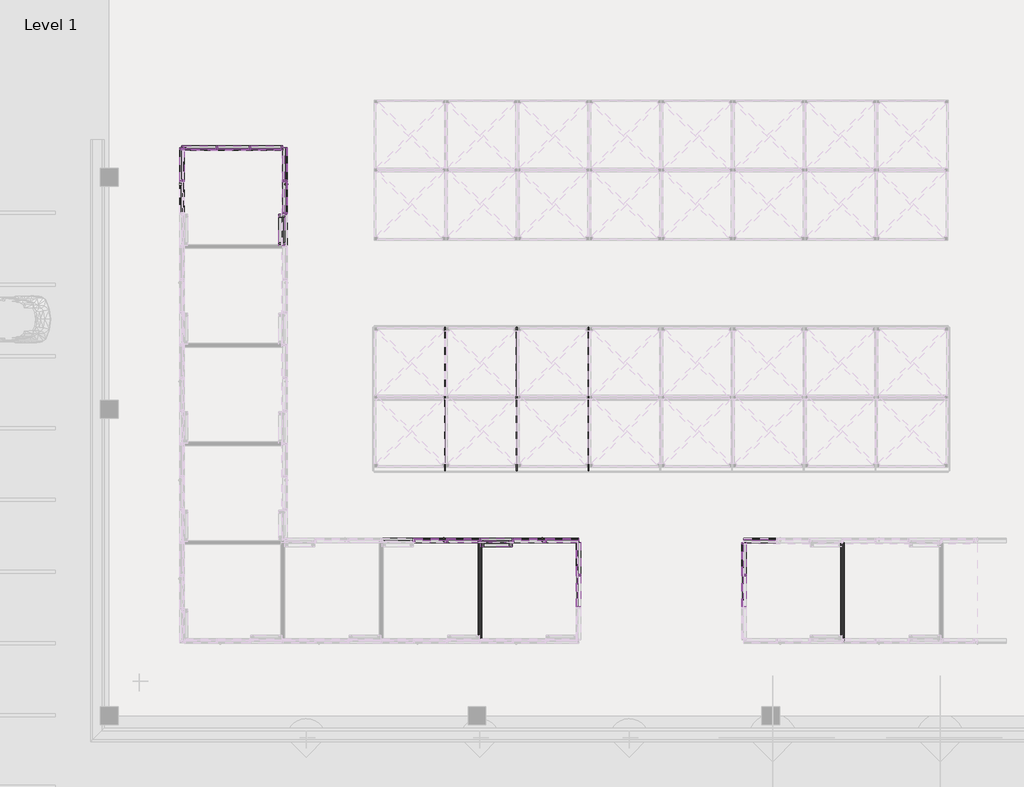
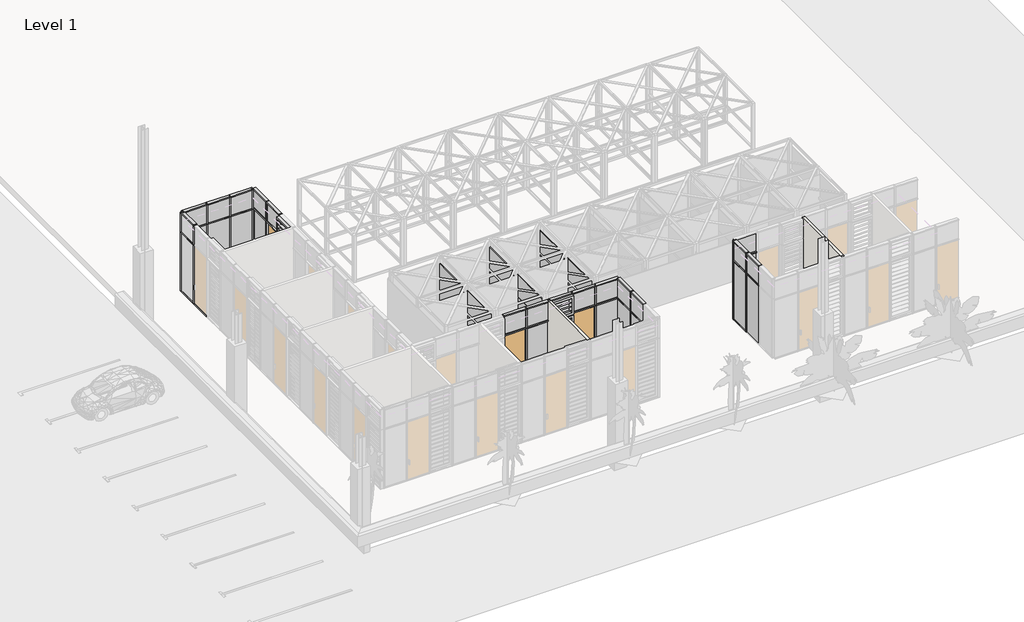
# One storey, part 4 of 32: 82 members, 32 plates, 3 doors, 2 walls.
"""IFC4 building model written with IfcOpenShell, lengths in millimetres."""

from ifc_helpers import new_model, si_unit, frame, origin, place, context, project, spatial, polyline, outline, extrude, transform, mapped, element, save
from components import curtain_wall_door_single_glass_nz_curtain_wall_door_single_2bf20aac, curtain_wall_door_single_glass_nz_curtain_wall_door_single_ff8afd41, rectangular_mullion_50x150mm_c4504768, rectangular_mullion_50x150mm_6c7cb899, rectangular_mullion_50x150mm_b0af8bb0, rectangular_mullion_50x150mm_bbc1c4ea, rectangular_mullion_50x150mm_1a36453b, rectangular_mullion_50x150mm_ef3a484d, rectangular_mullion_50x150mm_593aaa1e, rectangular_mullion_50x150mm_a65b6ca2, rectangular_mullion_50x150mm_38419d34, rectangular_mullion_50x150mm_eeb88b28, rectangular_mullion_50x150mm_68c91185, rectangular_mullion_50x150mm_0d540e17, rectangular_mullion_50x150mm_108cdc6f, rectangular_mullion_50x150mm_969ed0b5, rectangular_mullion_50x150mm_ed299feb, rectangular_mullion_50x150mm_a540b215, rectangular_mullion_50x150mm_a0cfcace, rectangular_mullion_50x150mm_7be19fc6, rectangular_mullion_50x150mm_2e7aba4c, rectangular_mullion_50x150mm_849620c7, rectangular_mullion_50x150mm_662c37b1, rectangular_mullion_50x150mm_c3fb0a2c, rectangular_mullion_50x150mm_43e459b7, curtain_wall_panel_louver_20805_curtain_wall_panel_louver_4af505d4, curtain_wall_panel_louver_20805_curtain_wall_panel_louver_14332c5b, curtain_wall_panel_glass_louver_20805_curtain_wall_panel_036772b2, curtain_wall_panel_glass_louver_20805_curtain_wall_panel_0f8e40a1, system_panel_glazed_29269e8f, system_panel_glazed_a5e8ce8b, system_panel_glazed_2ffedfca, system_panel_glazed_7622d22c, system_panel_glazed_a434d42b, system_panel_glazed_53fe5bbb, system_panel_glazed_57f08e05, system_panel_glazed_300e6ed4, system_panel_glazed_57b1a7ec, system_panel_glazed_83b29ed4, system_panel_glazed_e3f4a273, system_panel_glazed_cbbd3026, system_panel_glazed_714bd533, system_panel_glazed_c406ecc0, system_panel_glazed_912d3682, system_panel_glazed_de414a09, system_panel_solid_585523e5, system_panel_solid_9660e4da, system_panel_solid_746005ab, system_panel_solid_10c0fb46

model = new_model("IFC4")

# Units and contexts
model_context = context("Model", 3, world=origin())
ifc_project = project(units=[si_unit("LENGTHUNIT", "METRE", prefix="MILLI")], contexts=[model_context])

# Site, building, storey
site = spatial("IfcSite", under=ifc_project)
building = spatial("IfcBuilding", under=site)
storey = spatial("IfcBuildingStorey", under=building, Name="Level 1", Elevation=2800.0)

# Doors
placement = place(None, origin())
curtain_wall_door_single_glass_nz_curtain_wall_door_single_shape = curtain_wall_door_single_glass_nz_curtain_wall_door_single_2bf20aac(model_context)
element("IfcDoor", 1, ObjectType="Curtain Wall Door-Single-Glass (NZ) : Curtain Wall Door-Single-Glass (NZ)", at=placement, inside=storey, context=model_context, shape_type="MappedRepresentation", body=[
    mapped(curtain_wall_door_single_glass_nz_curtain_wall_door_single_shape, transform((-83784.8408447, -18455.9199596, 2850.0), x_axis=(0.0, -1.0, 0.0), y_axis=(1.0, 0.0, 0.0), z_axis=(0.0, 0.0, 1.0))),
])
curtain_wall_door_single_glass_nz_curtain_wall_door_single_2_shape = curtain_wall_door_single_glass_nz_curtain_wall_door_single_ff8afd41(model_context)
element("IfcDoor", 2, ObjectType="Curtain Wall Door-Single-Glass (NZ) : Curtain Wall Door-Single-Glass (NZ)", at=placement, inside=storey, context=model_context, shape_type="MappedRepresentation", body=[
    mapped(curtain_wall_door_single_glass_nz_curtain_wall_door_single_2_shape, transform((-78909.8408447, -29943.4199596, 2850.0), x_axis=(-1.0, 0.0, 0.0), y_axis=(0.0, -1.0, 0.0), z_axis=(0.0, 0.0, 1.0))),
])
element("IfcDoor", 3, ObjectType="Curtain Wall Door-Single-Glass (NZ) : Curtain Wall Door-Single-Glass (NZ)", at=placement, inside=storey, context=model_context, shape_type="MappedRepresentation", body=[
    mapped(curtain_wall_door_single_glass_nz_curtain_wall_door_single_2_shape, transform((-75609.8408447, -29943.4199596, 2850.0), x_axis=(-1.0, 0.0, 0.0), y_axis=(0.0, -1.0, 0.0), z_axis=(0.0, 0.0, 1.0))),
])

# Members
rectangular_mullion_50x150mm_shape = rectangular_mullion_50x150mm_c4504768(model_context)
element("IfcMember", 4, ObjectType="Rectangular Mullion : 50x150mm", at=placement, inside=storey, context=model_context, shape_type="MappedRepresentation", body=[
    mapped(rectangular_mullion_50x150mm_shape, transform((-83784.8408447, -18980.9199596, 5800.0), x_axis=(0.0, 0.0, 1.0), y_axis=(-1.0, 0.0, 0.0), z_axis=(0.0, -1.0, 0.0))),
])
element("IfcMember", 5, ObjectType="Rectangular Mullion : 50x150mm", at=placement, inside=storey, context=model_context, shape_type="MappedRepresentation", body=[
    mapped(rectangular_mullion_50x150mm_shape, transform((-86034.8408446, -16805.9199596, 5800.0), x_axis=(0.0, 0.0, 1.0), y_axis=(0.0, 1.0, 0.0), z_axis=(-1.0, 0.0, 0.0))),
])
rectangular_mullion_50x150mm_2_shape = rectangular_mullion_50x150mm_6c7cb899(model_context)
element("IfcMember", 6, ObjectType="Rectangular Mullion : 50x150mm", at=placement, inside=storey, context=model_context, shape_type="MappedRepresentation", body=[
    mapped(rectangular_mullion_50x150mm_2_shape, transform((-83784.8408447, -19005.9199596, 2800.0), x_axis=(0.0, -1.0, 0.0), y_axis=(-1.0, 0.0, 0.0), z_axis=(0.0, 0.0, -1.0))),
])
element("IfcMember", 7, ObjectType="Rectangular Mullion : 50x150mm", at=placement, inside=storey, context=model_context, shape_type="MappedRepresentation", body=[
    mapped(rectangular_mullion_50x150mm_2_shape, transform((-83784.8408447, -17905.9199596, 2800.0), x_axis=(0.0, -1.0, 0.0), y_axis=(-1.0, 0.0, 0.0), z_axis=(0.0, 0.0, -1.0))),
])
element("IfcMember", 8, ObjectType="Rectangular Mullion : 50x150mm", at=placement, inside=storey, context=model_context, shape_type="MappedRepresentation", body=[
    mapped(rectangular_mullion_50x150mm_2_shape, transform((-73959.8408447, -31092.5866264, 2800.0), x_axis=(0.0, 1.0, 0.0), y_axis=(1.0, 0.0, 0.0), z_axis=(0.0, 0.0, -1.0))),
])
element("IfcMember", 9, ObjectType="Rectangular Mullion : 50x150mm", at=placement, inside=storey, context=model_context, shape_type="MappedRepresentation", body=[
    mapped(rectangular_mullion_50x150mm_2_shape, transform((-68427.8056755, -31092.5866264, 2800.0), x_axis=(0.0, 1.0, 0.0), y_axis=(1.0, 0.0, 0.0), z_axis=(0.0, 0.0, -1.0))),
])
element("IfcMember", 10, ObjectType="Rectangular Mullion : 50x150mm", at=placement, inside=storey, context=model_context, shape_type="MappedRepresentation", body=[
    mapped(rectangular_mullion_50x150mm_2_shape, transform((-84959.8408448, -16805.9199596, 2800.0), x_axis=(-1.0, 0.0, 0.0), y_axis=(0.0, 1.0, 0.0), z_axis=(0.0, 0.0, -1.0))),
])
element("IfcMember", 11, ObjectType="Rectangular Mullion : 50x150mm", at=placement, inside=storey, context=model_context, shape_type="MappedRepresentation", body=[
    mapped(rectangular_mullion_50x150mm_2_shape, transform((-86059.8408446, -16805.9199596, 2800.0), x_axis=(-1.0, 0.0, 0.0), y_axis=(0.0, 1.0, 0.0), z_axis=(0.0, 0.0, -1.0))),
])
rectangular_mullion_50x150mm_3_shape = rectangular_mullion_50x150mm_b0af8bb0(model_context)
element("IfcMember", 12, ObjectType="Rectangular Mullion : 50x150mm", at=placement, inside=storey, context=model_context, shape_type="MappedRepresentation", body=[
    mapped(rectangular_mullion_50x150mm_3_shape, transform((-83784.8408447, -19030.9199596, 2800.0), x_axis=(0.0, 0.0, -1.0), y_axis=(-1.0, 0.0, 0.0), z_axis=(0.0, 1.0, 0.0))),
])
element("IfcMember", 13, ObjectType="Rectangular Mullion : 50x150mm", at=placement, inside=storey, context=model_context, shape_type="MappedRepresentation", body=[
    mapped(rectangular_mullion_50x150mm_3_shape, transform((-83784.8408447, -17930.9199596, 2800.0), x_axis=(0.0, 0.0, -1.0), y_axis=(-1.0, 0.0, 0.0), z_axis=(0.0, 1.0, 0.0))),
])
element("IfcMember", 14, ObjectType="Rectangular Mullion : 50x150mm", at=placement, inside=storey, context=model_context, shape_type="MappedRepresentation", body=[
    mapped(rectangular_mullion_50x150mm_3_shape, transform((-84984.8408448, -16805.9199596, 2800.0), x_axis=(0.0, 0.0, -1.0), y_axis=(0.0, 1.0, 0.0), z_axis=(1.0, 0.0, 0.0))),
])
rectangular_mullion_50x150mm_4_shape = rectangular_mullion_50x150mm_bbc1c4ea(model_context)
element("IfcMember", 15, ObjectType="Rectangular Mullion : 50x150mm", at=placement, inside=storey, context=model_context, shape_type="MappedRepresentation", body=[
    mapped(rectangular_mullion_50x150mm_4_shape, transform((-83784.8408447, -19005.9199596, 5800.0), x_axis=(0.0, -1.0, 0.0), y_axis=(-1.0, 0.0, 0.0), z_axis=(0.0, 0.0, -1.0))),
])
element("IfcMember", 16, ObjectType="Rectangular Mullion : 50x150mm", at=placement, inside=storey, context=model_context, shape_type="MappedRepresentation", body=[
    mapped(rectangular_mullion_50x150mm_4_shape, transform((-83784.8408447, -17905.9199596, 5800.0), x_axis=(0.0, -1.0, 0.0), y_axis=(-1.0, 0.0, 0.0), z_axis=(0.0, 0.0, -1.0))),
])
element("IfcMember", 17, ObjectType="Rectangular Mullion : 50x150mm", at=placement, inside=storey, context=model_context, shape_type="MappedRepresentation", body=[
    mapped(rectangular_mullion_50x150mm_4_shape, transform((-73959.8408447, -31092.5866264, 5800.0), x_axis=(0.0, 1.0, 0.0), y_axis=(1.0, 0.0, 0.0), z_axis=(0.0, 0.0, -1.0))),
])
element("IfcMember", 18, ObjectType="Rectangular Mullion : 50x150mm", at=placement, inside=storey, context=model_context, shape_type="MappedRepresentation", body=[
    mapped(rectangular_mullion_50x150mm_4_shape, transform((-68427.8056755, -31092.5866264, 5800.0), x_axis=(0.0, 1.0, 0.0), y_axis=(1.0, 0.0, 0.0), z_axis=(0.0, 0.0, -1.0))),
])
element("IfcMember", 19, ObjectType="Rectangular Mullion : 50x150mm", at=placement, inside=storey, context=model_context, shape_type="MappedRepresentation", body=[
    mapped(rectangular_mullion_50x150mm_4_shape, transform((-84959.8408448, -16805.9199596, 5800.0), x_axis=(-1.0, 0.0, 0.0), y_axis=(0.0, 1.0, 0.0), z_axis=(0.0, 0.0, -1.0))),
])
element("IfcMember", 20, ObjectType="Rectangular Mullion : 50x150mm", at=placement, inside=storey, context=model_context, shape_type="MappedRepresentation", body=[
    mapped(rectangular_mullion_50x150mm_4_shape, transform((-86059.8408446, -16805.9199596, 5800.0), x_axis=(-1.0, 0.0, 0.0), y_axis=(0.0, 1.0, 0.0), z_axis=(0.0, 0.0, -1.0))),
])
rectangular_mullion_50x150mm_5_shape = rectangular_mullion_50x150mm_1a36453b(model_context)
element("IfcMember", 21, ObjectType="Rectangular Mullion : 50x150mm", at=placement, inside=storey, context=model_context, shape_type="MappedRepresentation", body=[
    mapped(rectangular_mullion_50x150mm_5_shape, transform((-83784.8408447, -18980.9199596, 6800.0), x_axis=(0.0, 0.0, 1.0), y_axis=(-1.0, 0.0, 0.0), z_axis=(0.0, -1.0, 0.0))),
])
element("IfcMember", 22, ObjectType="Rectangular Mullion : 50x150mm", at=placement, inside=storey, context=model_context, shape_type="MappedRepresentation", body=[
    mapped(rectangular_mullion_50x150mm_5_shape, transform((-86034.8408446, -16805.9199596, 6800.0), x_axis=(0.0, 0.0, 1.0), y_axis=(0.0, 1.0, 0.0), z_axis=(-1.0, 0.0, 0.0))),
])
rectangular_mullion_50x150mm_6_shape = rectangular_mullion_50x150mm_ef3a484d(model_context)
element("IfcMember", 23, ObjectType="Rectangular Mullion : 50x150mm", at=placement, inside=storey, context=model_context, shape_type="MappedRepresentation", body=[
    mapped(rectangular_mullion_50x150mm_6_shape, transform((-67355.3056756, -29943.4199596, 5800.0), x_axis=(0.0, 0.0, 1.0), y_axis=(0.0, -1.0, 0.0), z_axis=(1.0, 0.0, 0.0))),
])
element("IfcMember", 24, ObjectType="Rectangular Mullion : 50x150mm", at=placement, inside=storey, context=model_context, shape_type="MappedRepresentation", body=[
    mapped(rectangular_mullion_50x150mm_6_shape, transform((-83784.8408447, -17880.9199596, 5800.0), x_axis=(0.0, 0.0, 1.0), y_axis=(-1.0, 0.0, 0.0), z_axis=(0.0, -1.0, 0.0))),
])
rectangular_mullion_50x150mm_7_shape = rectangular_mullion_50x150mm_593aaa1e(model_context)
element("IfcMember", 25, ObjectType="Rectangular Mullion : 50x150mm", at=placement, inside=storey, context=model_context, shape_type="MappedRepresentation", body=[
    mapped(rectangular_mullion_50x150mm_7_shape, transform((-68430.3056755, -29943.4199596, 2800.0), x_axis=(0.0, 0.0, -1.0), y_axis=(0.0, -1.0, 0.0), z_axis=(-1.0, 0.0, 0.0))),
])
element("IfcMember", 26, ObjectType="Rectangular Mullion : 50x150mm", at=placement, inside=storey, context=model_context, shape_type="MappedRepresentation", body=[
    mapped(rectangular_mullion_50x150mm_7_shape, transform((-83784.8408447, -16805.9199597, 2800.0), x_axis=(0.0, 0.0, -1.0), y_axis=(-1.0, 0.0, 0.0), z_axis=(0.0, 1.0, 0.0))),
])
element("IfcMember", 27, ObjectType="Rectangular Mullion : 50x150mm", at=placement, inside=storey, context=model_context, shape_type="MappedRepresentation", body=[
    mapped(rectangular_mullion_50x150mm_7_shape, transform((-83784.8408447, -17880.9199596, 6800.0), x_axis=(0.0, 0.0, 1.0), y_axis=(-1.0, 0.0, 0.0), z_axis=(0.0, -1.0, 0.0))),
])
rectangular_mullion_50x150mm_8_shape = rectangular_mullion_50x150mm_a65b6ca2(model_context)
element("IfcMember", 28, ObjectType="Rectangular Mullion : 50x150mm", at=placement, inside=storey, context=model_context, shape_type="MappedRepresentation", body=[
    mapped(rectangular_mullion_50x150mm_8_shape, transform((-84934.8408448, -16805.9199596, 6800.0), x_axis=(0.0, 0.0, 1.0), y_axis=(0.0, 1.0, 0.0), z_axis=(-1.0, 0.0, 0.0))),
])
element("IfcMember", 29, ObjectType="Rectangular Mullion : 50x150mm", at=placement, inside=storey, context=model_context, shape_type="MappedRepresentation", body=[
    mapped(rectangular_mullion_50x150mm_8_shape, transform((-83909.8408447, -16805.9199596, 2800.0), x_axis=(0.0, 0.0, -1.0), y_axis=(0.0, 1.0, 0.0), z_axis=(1.0, 0.0, 0.0))),
])
rectangular_mullion_50x150mm_9_shape = rectangular_mullion_50x150mm_38419d34(model_context)
element("IfcMember", 30, ObjectType="Rectangular Mullion : 50x150mm", at=placement, inside=storey, context=model_context, shape_type="MappedRepresentation", body=[
    mapped(rectangular_mullion_50x150mm_9_shape, transform((-84934.8408448, -16805.9199596, 5800.0), x_axis=(0.0, 0.0, 1.0), y_axis=(0.0, 1.0, 0.0), z_axis=(-1.0, 0.0, 0.0))),
])
rectangular_mullion_50x150mm_10_shape = rectangular_mullion_50x150mm_eeb88b28(model_context)
element("IfcMember", 31, ObjectType="Rectangular Mullion : 50x150mm", at=placement, inside=storey, context=model_context, shape_type="MappedRepresentation", body=[
    mapped(rectangular_mullion_50x150mm_10_shape, transform((-83859.8408447, -16805.9199596, 6800.0), x_axis=(1.0, 0.0, 0.0), y_axis=(0.0, 1.0, 0.0), z_axis=(0.0, 0.0, 1.0))),
])
rectangular_mullion_50x150mm_11_shape = rectangular_mullion_50x150mm_68c91185(model_context)
element("IfcMember", 32, ObjectType="Rectangular Mullion : 50x150mm", at=placement, inside=storey, context=model_context, shape_type="MappedRepresentation", body=[
    mapped(rectangular_mullion_50x150mm_11_shape, transform((-68427.8056755, -30005.9199596, 2800.0), x_axis=(0.0, 1.0, 0.0), y_axis=(1.0, 0.0, 0.0), z_axis=(0.0, 0.0, -1.0))),
])
element("IfcMember", 33, ObjectType="Rectangular Mullion : 50x150mm", at=placement, inside=storey, context=model_context, shape_type="MappedRepresentation", body=[
    mapped(rectangular_mullion_50x150mm_11_shape, transform((-87234.8408447, -16805.9199596, 2800.0), x_axis=(-1.0, 0.0, 0.0), y_axis=(0.0, 1.0, 0.0), z_axis=(0.0, 0.0, -1.0))),
])
element("IfcMember", 34, ObjectType="Rectangular Mullion : 50x150mm", at=placement, inside=storey, context=model_context, shape_type="MappedRepresentation", body=[
    mapped(rectangular_mullion_50x150mm_10_shape, transform((-68427.8056755, -30005.9199596, 5800.0), x_axis=(0.0, 1.0, 0.0), y_axis=(1.0, 0.0, 0.0), z_axis=(0.0, 0.0, -1.0))),
])
element("IfcMember", 35, ObjectType="Rectangular Mullion : 50x150mm", at=placement, inside=storey, context=model_context, shape_type="MappedRepresentation", body=[
    mapped(rectangular_mullion_50x150mm_10_shape, transform((-87234.8408447, -16805.9199596, 5800.0), x_axis=(-1.0, 0.0, 0.0), y_axis=(0.0, 1.0, 0.0), z_axis=(0.0, 0.0, -1.0))),
])
element("IfcMember", 36, ObjectType="Rectangular Mullion : 50x150mm", at=placement, inside=storey, context=model_context, shape_type="MappedRepresentation", body=[
    mapped(rectangular_mullion_50x150mm_11_shape, transform((-83859.8408447, -16805.9199596, 5800.0), x_axis=(1.0, 0.0, 0.0), y_axis=(0.0, 1.0, 0.0), z_axis=(0.0, 0.0, 1.0))),
])
element("IfcMember", 37, ObjectType="Rectangular Mullion : 50x150mm", at=placement, inside=storey, context=model_context, shape_type="MappedRepresentation", body=[
    mapped(rectangular_mullion_50x150mm_4_shape, transform((-79459.8408447, -29943.4199596, 5800.0), x_axis=(-1.0, 0.0, 0.0), y_axis=(0.0, 1.0, 0.0), z_axis=(0.0, 0.0, -1.0))),
])
element("IfcMember", 38, ObjectType="Rectangular Mullion : 50x150mm", at=placement, inside=storey, context=model_context, shape_type="MappedRepresentation", body=[
    mapped(rectangular_mullion_50x150mm_4_shape, transform((-78359.8408447, -29943.4199596, 5800.0), x_axis=(-1.0, 0.0, 0.0), y_axis=(0.0, 1.0, 0.0), z_axis=(0.0, 0.0, -1.0))),
])
element("IfcMember", 39, ObjectType="Rectangular Mullion : 50x150mm", at=placement, inside=storey, context=model_context, shape_type="MappedRepresentation", body=[
    mapped(rectangular_mullion_50x150mm_4_shape, transform((-77259.8408447, -29943.4199596, 5800.0), x_axis=(-1.0, 0.0, 0.0), y_axis=(0.0, 1.0, 0.0), z_axis=(0.0, 0.0, -1.0))),
])
element("IfcMember", 40, ObjectType="Rectangular Mullion : 50x150mm", at=placement, inside=storey, context=model_context, shape_type="MappedRepresentation", body=[
    mapped(rectangular_mullion_50x150mm_4_shape, transform((-76159.8408447, -29943.4199596, 5800.0), x_axis=(-1.0, 0.0, 0.0), y_axis=(0.0, 1.0, 0.0), z_axis=(0.0, 0.0, -1.0))),
])
element("IfcMember", 41, ObjectType="Rectangular Mullion : 50x150mm", at=placement, inside=storey, context=model_context, shape_type="MappedRepresentation", body=[
    mapped(rectangular_mullion_50x150mm_4_shape, transform((-75059.8408447, -29943.4199596, 5800.0), x_axis=(-1.0, 0.0, 0.0), y_axis=(0.0, 1.0, 0.0), z_axis=(0.0, 0.0, -1.0))),
])
element("IfcMember", 42, ObjectType="Rectangular Mullion : 50x150mm", at=placement, inside=storey, context=model_context, shape_type="MappedRepresentation", body=[
    mapped(rectangular_mullion_50x150mm_4_shape, transform((-87234.8408447, -17905.9199596, 5800.0), x_axis=(0.0, -1.0, 0.0), y_axis=(-1.0, 0.0, 0.0), z_axis=(0.0, 0.0, -1.0))),
])
element("IfcMember", 43, ObjectType="Rectangular Mullion : 50x150mm", at=placement, inside=storey, context=model_context, shape_type="MappedRepresentation", body=[
    mapped(rectangular_mullion_50x150mm_2_shape, transform((-79459.8408447, -29943.4199596, 2800.0), x_axis=(-1.0, 0.0, 0.0), y_axis=(0.0, 1.0, 0.0), z_axis=(0.0, 0.0, -1.0))),
])
element("IfcMember", 44, ObjectType="Rectangular Mullion : 50x150mm", at=placement, inside=storey, context=model_context, shape_type="MappedRepresentation", body=[
    mapped(rectangular_mullion_50x150mm_2_shape, transform((-78359.8408447, -29943.4199596, 2800.0), x_axis=(-1.0, 0.0, 0.0), y_axis=(0.0, 1.0, 0.0), z_axis=(0.0, 0.0, -1.0))),
])
element("IfcMember", 45, ObjectType="Rectangular Mullion : 50x150mm", at=placement, inside=storey, context=model_context, shape_type="MappedRepresentation", body=[
    mapped(rectangular_mullion_50x150mm_2_shape, transform((-77259.8408447, -29943.4199596, 2800.0), x_axis=(-1.0, 0.0, 0.0), y_axis=(0.0, 1.0, 0.0), z_axis=(0.0, 0.0, -1.0))),
])
element("IfcMember", 46, ObjectType="Rectangular Mullion : 50x150mm", at=placement, inside=storey, context=model_context, shape_type="MappedRepresentation", body=[
    mapped(rectangular_mullion_50x150mm_2_shape, transform((-76159.8408447, -29943.4199596, 2800.0), x_axis=(-1.0, 0.0, 0.0), y_axis=(0.0, 1.0, 0.0), z_axis=(0.0, 0.0, -1.0))),
])
element("IfcMember", 47, ObjectType="Rectangular Mullion : 50x150mm", at=placement, inside=storey, context=model_context, shape_type="MappedRepresentation", body=[
    mapped(rectangular_mullion_50x150mm_2_shape, transform((-75059.8408447, -29943.4199596, 2800.0), x_axis=(-1.0, 0.0, 0.0), y_axis=(0.0, 1.0, 0.0), z_axis=(0.0, 0.0, -1.0))),
])
element("IfcMember", 48, ObjectType="Rectangular Mullion : 50x150mm", at=placement, inside=storey, context=model_context, shape_type="MappedRepresentation", body=[
    mapped(rectangular_mullion_50x150mm_2_shape, transform((-87234.8408447, -17905.9199596, 2800.0), x_axis=(0.0, -1.0, 0.0), y_axis=(-1.0, 0.0, 0.0), z_axis=(0.0, 0.0, -1.0))),
])
rectangular_mullion_50x150mm_12_shape = rectangular_mullion_50x150mm_0d540e17(model_context)
element("IfcMember", 49, ObjectType="Rectangular Mullion : 50x150mm", at=placement, inside=storey, context=model_context, shape_type="MappedRepresentation", body=[
    mapped(rectangular_mullion_50x150mm_12_shape, transform((-79434.8408447, -29943.4199596, 5800.0), x_axis=(0.0, 0.0, 1.0), y_axis=(0.0, 1.0, 0.0), z_axis=(-1.0, 0.0, 0.0))),
])
element("IfcMember", 50, ObjectType="Rectangular Mullion : 50x150mm", at=placement, inside=storey, context=model_context, shape_type="MappedRepresentation", body=[
    mapped(rectangular_mullion_50x150mm_12_shape, transform((-77234.8408447, -29943.4199596, 5800.0), x_axis=(0.0, 0.0, 1.0), y_axis=(0.0, 1.0, 0.0), z_axis=(-1.0, 0.0, 0.0))),
])
element("IfcMember", 51, ObjectType="Rectangular Mullion : 50x150mm", at=placement, inside=storey, context=model_context, shape_type="MappedRepresentation", body=[
    mapped(rectangular_mullion_50x150mm_12_shape, transform((-76134.8408447, -29943.4199596, 5800.0), x_axis=(0.0, 0.0, 1.0), y_axis=(0.0, 1.0, 0.0), z_axis=(-1.0, 0.0, 0.0))),
])
element("IfcMember", 52, ObjectType="Rectangular Mullion : 50x150mm", at=placement, inside=storey, context=model_context, shape_type="MappedRepresentation", body=[
    mapped(rectangular_mullion_50x150mm_12_shape, transform((-78334.8408447, -29943.4199596, 5800.0), x_axis=(0.0, 0.0, 1.0), y_axis=(0.0, 1.0, 0.0), z_axis=(-1.0, 0.0, 0.0))),
])
element("IfcMember", 53, ObjectType="Rectangular Mullion : 50x150mm", at=placement, inside=storey, context=model_context, shape_type="MappedRepresentation", body=[
    mapped(rectangular_mullion_50x150mm_6_shape, transform((-75034.8408447, -29943.4199596, 5800.0), x_axis=(0.0, 0.0, 1.0), y_axis=(0.0, 1.0, 0.0), z_axis=(-1.0, 0.0, 0.0))),
])
rectangular_mullion_50x150mm_13_shape = rectangular_mullion_50x150mm_108cdc6f(model_context)
element("IfcMember", 54, ObjectType="Rectangular Mullion : 50x150mm", at=placement, inside=storey, context=model_context, shape_type="MappedRepresentation", body=[
    mapped(rectangular_mullion_50x150mm_13_shape, transform((-79484.8408447, -29943.4199596, 2800.0), x_axis=(0.0, 0.0, -1.0), y_axis=(0.0, 1.0, 0.0), z_axis=(1.0, 0.0, 0.0))),
])
element("IfcMember", 55, ObjectType="Rectangular Mullion : 50x150mm", at=placement, inside=storey, context=model_context, shape_type="MappedRepresentation", body=[
    mapped(rectangular_mullion_50x150mm_13_shape, transform((-78384.8408447, -29943.4199596, 2800.0), x_axis=(0.0, 0.0, -1.0), y_axis=(0.0, 1.0, 0.0), z_axis=(1.0, 0.0, 0.0))),
])
element("IfcMember", 56, ObjectType="Rectangular Mullion : 50x150mm", at=placement, inside=storey, context=model_context, shape_type="MappedRepresentation", body=[
    mapped(rectangular_mullion_50x150mm_13_shape, transform((-76184.8408447, -29943.4199596, 2800.0), x_axis=(0.0, 0.0, -1.0), y_axis=(0.0, 1.0, 0.0), z_axis=(1.0, 0.0, 0.0))),
])
element("IfcMember", 57, ObjectType="Rectangular Mullion : 50x150mm", at=placement, inside=storey, context=model_context, shape_type="MappedRepresentation", body=[
    mapped(rectangular_mullion_50x150mm_13_shape, transform((-75084.8408447, -29943.4199596, 2800.0), x_axis=(0.0, 0.0, -1.0), y_axis=(0.0, 1.0, 0.0), z_axis=(1.0, 0.0, 0.0))),
])
element("IfcMember", 58, ObjectType="Rectangular Mullion : 50x150mm", at=placement, inside=storey, context=model_context, shape_type="MappedRepresentation", body=[
    mapped(rectangular_mullion_50x150mm_13_shape, transform((-77284.8408447, -29943.4199596, 2800.0), x_axis=(0.0, 0.0, -1.0), y_axis=(0.0, 1.0, 0.0), z_axis=(1.0, 0.0, 0.0))),
])
element("IfcMember", 59, ObjectType="Rectangular Mullion : 50x150mm", at=placement, inside=storey, context=model_context, shape_type="MappedRepresentation", body=[
    mapped(rectangular_mullion_50x150mm_13_shape, transform((-87234.8408447, -17930.9199596, 2800.0), x_axis=(0.0, 0.0, -1.0), y_axis=(-1.0, 0.0, 0.0), z_axis=(0.0, 1.0, 0.0))),
])
element("IfcMember", 60, ObjectType="Rectangular Mullion : 50x150mm", at=placement, inside=storey, context=model_context, shape_type="MappedRepresentation", body=[
    mapped(rectangular_mullion_50x150mm_7_shape, transform((-73959.8408448, -29943.4199596, 2800.0), x_axis=(0.0, 0.0, -1.0), y_axis=(0.0, 1.0, 0.0), z_axis=(1.0, 0.0, 0.0))),
])
element("IfcMember", 61, ObjectType="Rectangular Mullion : 50x150mm", at=placement, inside=storey, context=model_context, shape_type="MappedRepresentation", body=[
    mapped(rectangular_mullion_50x150mm_5_shape, transform((-79434.8408447, -29943.4199596, 6800.0), x_axis=(0.0, 0.0, 1.0), y_axis=(0.0, 1.0, 0.0), z_axis=(-1.0, 0.0, 0.0))),
])
element("IfcMember", 62, ObjectType="Rectangular Mullion : 50x150mm", at=placement, inside=storey, context=model_context, shape_type="MappedRepresentation", body=[
    mapped(rectangular_mullion_50x150mm_5_shape, transform((-78334.8408447, -29943.4199596, 6800.0), x_axis=(0.0, 0.0, 1.0), y_axis=(0.0, 1.0, 0.0), z_axis=(-1.0, 0.0, 0.0))),
])
element("IfcMember", 63, ObjectType="Rectangular Mullion : 50x150mm", at=placement, inside=storey, context=model_context, shape_type="MappedRepresentation", body=[
    mapped(rectangular_mullion_50x150mm_5_shape, transform((-76134.8408447, -29943.4199596, 6800.0), x_axis=(0.0, 0.0, 1.0), y_axis=(0.0, 1.0, 0.0), z_axis=(-1.0, 0.0, 0.0))),
])
element("IfcMember", 64, ObjectType="Rectangular Mullion : 50x150mm", at=placement, inside=storey, context=model_context, shape_type="MappedRepresentation", body=[
    mapped(rectangular_mullion_50x150mm_5_shape, transform((-77234.8408447, -29943.4199596, 6800.0), x_axis=(0.0, 0.0, 1.0), y_axis=(0.0, 1.0, 0.0), z_axis=(-1.0, 0.0, 0.0))),
])
element("IfcMember", 65, ObjectType="Rectangular Mullion : 50x150mm", at=placement, inside=storey, context=model_context, shape_type="MappedRepresentation", body=[
    mapped(rectangular_mullion_50x150mm_7_shape, transform((-75034.8408447, -29943.4199596, 6800.0), x_axis=(0.0, 0.0, 1.0), y_axis=(0.0, 1.0, 0.0), z_axis=(-1.0, 0.0, 0.0))),
])
element("IfcMember", 66, ObjectType="Rectangular Mullion : 50x150mm", at=placement, inside=storey, context=model_context, shape_type="MappedRepresentation", body=[
    mapped(rectangular_mullion_50x150mm_8_shape, transform((-87234.8408447, -17880.9199596, 6800.0), x_axis=(0.0, 0.0, 1.0), y_axis=(-1.0, 0.0, 0.0), z_axis=(0.0, -1.0, 0.0))),
])
element("IfcMember", 67, ObjectType="Rectangular Mullion : 50x150mm", at=placement, inside=storey, context=model_context, shape_type="MappedRepresentation", body=[
    mapped(rectangular_mullion_50x150mm_8_shape, transform((-87234.8408447, -16855.9199597, 2800.0), x_axis=(0.0, 0.0, -1.0), y_axis=(-1.0, 0.0, 0.0), z_axis=(0.0, 1.0, 0.0))),
])
element("IfcMember", 68, ObjectType="Rectangular Mullion : 50x150mm", at=placement, inside=storey, context=model_context, shape_type="MappedRepresentation", body=[
    mapped(rectangular_mullion_50x150mm_9_shape, transform((-87234.8408447, -17880.9199596, 5800.0), x_axis=(0.0, 0.0, 1.0), y_axis=(-1.0, 0.0, 0.0), z_axis=(0.0, -1.0, 0.0))),
])
element("IfcMember", 69, ObjectType="Rectangular Mullion : 50x150mm", at=placement, inside=storey, context=model_context, shape_type="MappedRepresentation", body=[
    mapped(rectangular_mullion_50x150mm_11_shape, transform((-87234.8408447, -16805.9199597, 5800.0), x_axis=(0.0, 1.0, 0.0), y_axis=(-1.0, 0.0, 0.0), z_axis=(0.0, 0.0, 1.0))),
])
element("IfcMember", 70, ObjectType="Rectangular Mullion : 50x150mm", at=placement, inside=storey, context=model_context, shape_type="MappedRepresentation", body=[
    mapped(rectangular_mullion_50x150mm_10_shape, transform((-87234.8408447, -16805.9199597, 6800.0), x_axis=(0.0, 1.0, 0.0), y_axis=(-1.0, 0.0, 0.0), z_axis=(0.0, 0.0, 1.0))),
])
rectangular_mullion_50x150mm_14_shape = rectangular_mullion_50x150mm_969ed0b5(model_context)
element("IfcMember", 71, ObjectType="Rectangular Mullion : 50x150mm", at=placement, inside=storey, context=model_context, shape_type="MappedRepresentation", body=[
    mapped(rectangular_mullion_50x150mm_14_shape, transform((-73959.8408447, -30005.9199596, 5800.0), x_axis=(0.0, 0.0, 1.0), y_axis=(1.0, 0.0, 0.0), z_axis=(0.0, 1.0, 0.0))),
])
rectangular_mullion_50x150mm_15_shape = rectangular_mullion_50x150mm_ed299feb(model_context)
element("IfcMember", 72, ObjectType="Rectangular Mullion : 50x150mm", at=placement, inside=storey, context=model_context, shape_type="MappedRepresentation", body=[
    mapped(rectangular_mullion_50x150mm_15_shape, transform((-73959.8408447, -31117.5866264, 5800.0), x_axis=(0.0, 0.0, 1.0), y_axis=(1.0, 0.0, 0.0), z_axis=(0.0, 1.0, 0.0))),
])
element("IfcMember", 73, ObjectType="Rectangular Mullion : 50x150mm", at=placement, inside=storey, context=model_context, shape_type="MappedRepresentation", body=[
    mapped(rectangular_mullion_50x150mm_15_shape, transform((-68427.8056755, -31117.5866264, 5800.0), x_axis=(0.0, 0.0, 1.0), y_axis=(1.0, 0.0, 0.0), z_axis=(0.0, 1.0, 0.0))),
])
rectangular_mullion_50x150mm_16_shape = rectangular_mullion_50x150mm_a540b215(model_context)
element("IfcMember", 74, ObjectType="Rectangular Mullion : 50x150mm", at=placement, inside=storey, context=model_context, shape_type="MappedRepresentation", body=[
    mapped(rectangular_mullion_50x150mm_16_shape, transform((-73959.8408447, -31117.5866264, 6800.0), x_axis=(0.0, 0.0, 1.0), y_axis=(1.0, 0.0, 0.0), z_axis=(0.0, 1.0, 0.0))),
])
element("IfcMember", 75, ObjectType="Rectangular Mullion : 50x150mm", at=placement, inside=storey, context=model_context, shape_type="MappedRepresentation", body=[
    mapped(rectangular_mullion_50x150mm_16_shape, transform((-68427.8056755, -31117.5866264, 6800.0), x_axis=(0.0, 0.0, 1.0), y_axis=(1.0, 0.0, 0.0), z_axis=(0.0, 1.0, 0.0))),
])
rectangular_mullion_50x150mm_17_shape = rectangular_mullion_50x150mm_a0cfcace(model_context)
element("IfcMember", 76, ObjectType="Rectangular Mullion : 50x150mm", at=placement, inside=storey, context=model_context, shape_type="MappedRepresentation", body=[
    mapped(rectangular_mullion_50x150mm_17_shape, transform((-73959.8408447, -30005.9199596, 6800.0), x_axis=(0.0, 0.0, 1.0), y_axis=(1.0, 0.0, 0.0), z_axis=(0.0, 1.0, 0.0))),
])
element("IfcMember", 77, ObjectType="Rectangular Mullion : 50x150mm", at=placement, inside=storey, context=model_context, shape_type="MappedRepresentation", body=[
    mapped(rectangular_mullion_50x150mm_17_shape, transform((-73959.8408447, -31067.5866264, 2800.0), x_axis=(0.0, 0.0, -1.0), y_axis=(1.0, 0.0, 0.0), z_axis=(0.0, -1.0, 0.0))),
])
rectangular_mullion_50x150mm_18_shape = rectangular_mullion_50x150mm_7be19fc6(model_context)
element("IfcMember", 78, ObjectType="Rectangular Mullion : 50x150mm", at=placement, inside=storey, context=model_context, shape_type="MappedRepresentation", body=[
    mapped(rectangular_mullion_50x150mm_18_shape, transform((-68427.8056755, -30055.9199596, 5800.0), x_axis=(0.0, 0.0, 1.0), y_axis=(1.0, 0.0, 0.0), z_axis=(0.0, 1.0, 0.0))),
])
rectangular_mullion_50x150mm_19_shape = rectangular_mullion_50x150mm_2e7aba4c(model_context)
element("IfcMember", 79, ObjectType="Rectangular Mullion : 50x150mm", at=placement, inside=storey, context=model_context, shape_type="MappedRepresentation", body=[
    mapped(rectangular_mullion_50x150mm_19_shape, transform((-68427.8056755, -31067.5866264, 2800.0), x_axis=(0.0, 0.0, -1.0), y_axis=(1.0, 0.0, 0.0), z_axis=(0.0, -1.0, 0.0))),
])
element("IfcMember", 80, ObjectType="Rectangular Mullion : 50x150mm", at=placement, inside=storey, context=model_context, shape_type="MappedRepresentation", body=[
    mapped(rectangular_mullion_50x150mm_19_shape, transform((-68427.8056755, -30055.9199596, 6800.0), x_axis=(0.0, 0.0, 1.0), y_axis=(1.0, 0.0, 0.0), z_axis=(0.0, 1.0, 0.0))),
])
rectangular_mullion_50x150mm_20_shape = rectangular_mullion_50x150mm_849620c7(model_context)
element("IfcMember", 81, ObjectType="Rectangular Mullion : 50x150mm", at=placement, inside=storey, context=model_context, shape_type="MappedRepresentation", body=[
    mapped(rectangular_mullion_50x150mm_20_shape, transform((-87159.8408447, -16805.9199596, 5200.0), x_axis=(0.0, 1.0, 0.0), y_axis=(1.0, 0.0, 0.0), z_axis=(0.0, 0.0, -1.0))),
])
rectangular_mullion_50x150mm_21_shape = rectangular_mullion_50x150mm_662c37b1(model_context)
element("IfcMember", 82, ObjectType="Rectangular Mullion : 50x150mm", at=placement, inside=storey, context=model_context, shape_type="MappedRepresentation", body=[
    mapped(rectangular_mullion_50x150mm_21_shape, transform((-87159.8408447, -16805.9199596, 2800.0), x_axis=(0.0, 1.0, 0.0), y_axis=(1.0, 0.0, 0.0), z_axis=(0.0, 0.0, -1.0))),
])
rectangular_mullion_50x150mm_22_shape = rectangular_mullion_50x150mm_c3fb0a2c(model_context)
element("IfcMember", 83, ObjectType="Rectangular Mullion : 50x150mm", at=placement, inside=storey, context=model_context, shape_type="MappedRepresentation", body=[
    mapped(rectangular_mullion_50x150mm_22_shape, transform((-87184.8408447, -16805.9199596, 5800.0), x_axis=(0.0, 0.0, 1.0), y_axis=(0.0, 1.0, 0.0), z_axis=(-1.0, 0.0, 0.0))),
])
rectangular_mullion_50x150mm_23_shape = rectangular_mullion_50x150mm_43e459b7(model_context)
element("IfcMember", 84, ObjectType="Rectangular Mullion : 50x150mm", at=placement, inside=storey, context=model_context, shape_type="MappedRepresentation", body=[
    mapped(rectangular_mullion_50x150mm_23_shape, transform((-87184.8408447, -16805.9199596, 6800.0), x_axis=(0.0, 0.0, 1.0), y_axis=(0.0, 1.0, 0.0), z_axis=(-1.0, 0.0, 0.0))),
])
element("IfcMember", 85, ObjectType="Rectangular Mullion : 50x150mm", at=placement, inside=storey, context=model_context, shape_type="MappedRepresentation", body=[
    mapped(rectangular_mullion_50x150mm_23_shape, transform((-86084.8408446, -16805.9199596, 2800.0), x_axis=(0.0, 0.0, -1.0), y_axis=(0.0, 1.0, 0.0), z_axis=(1.0, 0.0, 0.0))),
])

# Plates
curtain_wall_panel_louver_20805_curtain_wall_panel_louver_shape = curtain_wall_panel_louver_20805_curtain_wall_panel_louver_4af505d4(model_context)
element("IfcPlate", 86, ObjectType="Curtain_wall_panel_-_Louver_20805 : Curtain_wall_panel_-_Louver_20805", at=placement, inside=storey, context=model_context, shape_type="MappedRepresentation", body=[
    mapped(curtain_wall_panel_louver_20805_curtain_wall_panel_louver_shape, transform((-83784.8408447, -19555.9199596, 5825.0), x_axis=(0.0, -1.0, 0.0), y_axis=(1.0, 0.0, 0.0), z_axis=(0.0, 0.0, 1.0))),
])
curtain_wall_panel_louver_20805_curtain_wall_panel_louver_2_shape = curtain_wall_panel_louver_20805_curtain_wall_panel_louver_14332c5b(model_context)
element("IfcPlate", 87, ObjectType="Curtain_wall_panel_-_Louver_20805 : Curtain_wall_panel_-_Louver_20805", at=placement, inside=storey, context=model_context, shape_type="MappedRepresentation", body=[
    mapped(curtain_wall_panel_louver_20805_curtain_wall_panel_louver_2_shape, transform((-76709.8408447, -29943.4199596, 5825.0), x_axis=(-1.0, 0.0, 0.0), y_axis=(0.0, -1.0, 0.0), z_axis=(0.0, 0.0, 1.0))),
])
curtain_wall_panel_glass_louver_20805_curtain_wall_panel_shape = curtain_wall_panel_glass_louver_20805_curtain_wall_panel_036772b2(model_context)
element("IfcPlate", 88, ObjectType="Curtain_wall_panel_glass_Louver_20805 : Curtain_wall_panel_glass_Louver_20805", at=placement, inside=storey, context=model_context, shape_type="MappedRepresentation", body=[
    mapped(curtain_wall_panel_glass_louver_20805_curtain_wall_panel_shape, transform((-83784.8408447, -19555.9199596, 2850.0), x_axis=(0.0, -1.0, 0.0), y_axis=(1.0, 0.0, 0.0), z_axis=(0.0, 0.0, 1.0))),
])
curtain_wall_panel_glass_louver_20805_curtain_wall_panel_2_shape = curtain_wall_panel_glass_louver_20805_curtain_wall_panel_0f8e40a1(model_context)
element("IfcPlate", 89, ObjectType="Curtain_wall_panel_glass_Louver_20805 : Curtain_wall_panel_glass_Louver_20805", at=placement, inside=storey, context=model_context, shape_type="MappedRepresentation", body=[
    mapped(curtain_wall_panel_glass_louver_20805_curtain_wall_panel_2_shape, transform((-76709.8408447, -29943.4199596, 2850.0), x_axis=(-1.0, 0.0, 0.0), y_axis=(0.0, -1.0, 0.0), z_axis=(0.0, 0.0, 1.0))),
])
system_panel_glazed_shape = system_panel_glazed_29269e8f(model_context)
element("IfcPlate", 90, ObjectType="System Panel : Glazed", at=placement, inside=storey, context=model_context, shape_type="MappedRepresentation", body=[
    mapped(system_panel_glazed_shape, transform((-73595.3056755, -25205.6175809, 2800.0), x_axis=(0.0, 1.0, 0.0), y_axis=(-1.0, 0.0, 0.0), z_axis=(0.0, 0.0, 1.0))),
])
element("IfcPlate", 91, ObjectType="System Panel : Glazed", at=placement, inside=storey, context=model_context, shape_type="MappedRepresentation", body=[
    mapped(system_panel_glazed_shape, transform((-75995.3056755, -25205.6175809, 2800.0), x_axis=(0.0, 1.0, 0.0), y_axis=(-1.0, 0.0, 0.0), z_axis=(0.0, 0.0, 1.0))),
])
element("IfcPlate", 92, ObjectType="System Panel : Glazed", at=placement, inside=storey, context=model_context, shape_type="MappedRepresentation", body=[
    mapped(system_panel_glazed_shape, transform((-78395.3056755, -25205.6175809, 2800.0), x_axis=(0.0, 1.0, 0.0), y_axis=(-1.0, 0.0, 0.0), z_axis=(0.0, 0.0, 1.0))),
])
system_panel_glazed_2_shape = system_panel_glazed_a5e8ce8b(model_context)
element("IfcPlate", 93, ObjectType="System Panel : Glazed", at=placement, inside=storey, context=model_context, shape_type="MappedRepresentation", body=[
    mapped(system_panel_glazed_2_shape, transform((-85509.8408447, -16805.9199596, 2850.0), x_axis=(-1.0, 0.0, 0.0), y_axis=(0.0, -1.0, 0.0), z_axis=(0.0, 0.0, 1.0))),
])
system_panel_glazed_3_shape = system_panel_glazed_2ffedfca(model_context)
element("IfcPlate", 94, ObjectType="System Panel : Glazed", at=placement, inside=storey, context=model_context, shape_type="MappedRepresentation", body=[
    mapped(system_panel_glazed_3_shape, transform((-67892.8056755, -29943.4199596, 2850.0), x_axis=(1.0, 0.0, 0.0), y_axis=(0.0, 1.0, 0.0), z_axis=(0.0, 0.0, 1.0))),
])
element("IfcPlate", 95, ObjectType="System Panel : Glazed", at=placement, inside=storey, context=model_context, shape_type="MappedRepresentation", body=[
    mapped(system_panel_glazed_3_shape, transform((-83784.8408447, -17343.4199597, 2850.0), x_axis=(0.0, -1.0, 0.0), y_axis=(1.0, 0.0, 0.0), z_axis=(0.0, 0.0, 1.0))),
])
system_panel_glazed_4_shape = system_panel_glazed_7622d22c(model_context)
element("IfcPlate", 96, ObjectType="System Panel : Glazed", at=placement, inside=storey, context=model_context, shape_type="MappedRepresentation", body=[
    mapped(system_panel_glazed_4_shape, transform((-84422.3408448, -16805.9199596, 2850.0), x_axis=(-1.0, 0.0, 0.0), y_axis=(0.0, -1.0, 0.0), z_axis=(0.0, 0.0, 1.0))),
])
system_panel_glazed_5_shape = system_panel_glazed_a434d42b(model_context)
element("IfcPlate", 97, ObjectType="System Panel : Glazed", at=placement, inside=storey, context=model_context, shape_type="MappedRepresentation", body=[
    mapped(system_panel_glazed_5_shape, transform((-74497.3408448, -29943.4199596, 2850.0), x_axis=(-1.0, 0.0, 0.0), y_axis=(0.0, -1.0, 0.0), z_axis=(0.0, 0.0, 1.0))),
])
system_panel_glazed_6_shape = system_panel_glazed_53fe5bbb(model_context)
element("IfcPlate", 98, ObjectType="System Panel : Glazed", at=placement, inside=storey, context=model_context, shape_type="MappedRepresentation", body=[
    mapped(system_panel_glazed_6_shape, transform((-77809.8408447, -29943.4199596, 2850.0), x_axis=(-1.0, 0.0, 0.0), y_axis=(0.0, -1.0, 0.0), z_axis=(0.0, 0.0, 1.0))),
])
system_panel_glazed_7_shape = system_panel_glazed_57f08e05(model_context)
element("IfcPlate", 99, ObjectType="System Panel : Glazed", at=placement, inside=storey, context=model_context, shape_type="MappedRepresentation", body=[
    mapped(system_panel_glazed_7_shape, transform((-85509.8408447, -16805.9199596, 5825.0), x_axis=(-1.0, 0.0, 0.0), y_axis=(0.0, -1.0, 0.0), z_axis=(0.0, 0.0, 1.0))),
])
system_panel_glazed_8_shape = system_panel_glazed_300e6ed4(model_context)
element("IfcPlate", 100, ObjectType="System Panel : Glazed", at=placement, inside=storey, context=model_context, shape_type="MappedRepresentation", body=[
    mapped(system_panel_glazed_8_shape, transform((-84422.3408448, -16805.9199596, 5825.0), x_axis=(-1.0, 0.0, 0.0), y_axis=(0.0, -1.0, 0.0), z_axis=(0.0, 0.0, 1.0))),
])
system_panel_glazed_9_shape = system_panel_glazed_57b1a7ec(model_context)
element("IfcPlate", 101, ObjectType="System Panel : Glazed", at=placement, inside=storey, context=model_context, shape_type="MappedRepresentation", body=[
    mapped(system_panel_glazed_9_shape, transform((-73959.8408447, -30536.753293, 5825.0), x_axis=(0.0, 1.0, 0.0), y_axis=(-1.0, 0.0, 0.0), z_axis=(0.0, 0.0, 1.0))),
])
system_panel_glazed_10_shape = system_panel_glazed_83b29ed4(model_context)
element("IfcPlate", 102, ObjectType="System Panel : Glazed", at=placement, inside=storey, context=model_context, shape_type="MappedRepresentation", body=[
    mapped(system_panel_glazed_10_shape, transform((-73959.8408447, -31635.9199596, 5825.0), x_axis=(0.0, 1.0, 0.0), y_axis=(-1.0, 0.0, 0.0), z_axis=(0.0, 0.0, 1.0))),
])
element("IfcPlate", 103, ObjectType="System Panel : Glazed", at=placement, inside=storey, context=model_context, shape_type="MappedRepresentation", body=[
    mapped(system_panel_glazed_10_shape, transform((-68427.8056755, -31635.9199596, 5825.0), x_axis=(0.0, 1.0, 0.0), y_axis=(-1.0, 0.0, 0.0), z_axis=(0.0, 0.0, 1.0))),
])
system_panel_glazed_11_shape = system_panel_glazed_e3f4a273(model_context)
element("IfcPlate", 104, ObjectType="System Panel : Glazed", at=placement, inside=storey, context=model_context, shape_type="MappedRepresentation", body=[
    mapped(system_panel_glazed_11_shape, transform((-73959.8408447, -30536.753293, 2850.0), x_axis=(0.0, 1.0, 0.0), y_axis=(-1.0, 0.0, 0.0), z_axis=(0.0, 0.0, 1.0))),
])
system_panel_glazed_12_shape = system_panel_glazed_cbbd3026(model_context)
element("IfcPlate", 105, ObjectType="System Panel : Glazed", at=placement, inside=storey, context=model_context, shape_type="MappedRepresentation", body=[
    mapped(system_panel_glazed_12_shape, transform((-73959.8408447, -31635.9199596, 2850.0), x_axis=(0.0, 1.0, 0.0), y_axis=(-1.0, 0.0, 0.0), z_axis=(0.0, 0.0, 1.0))),
])
element("IfcPlate", 106, ObjectType="System Panel : Glazed", at=placement, inside=storey, context=model_context, shape_type="MappedRepresentation", body=[
    mapped(system_panel_glazed_12_shape, transform((-68427.8056755, -31635.9199596, 2850.0), x_axis=(0.0, 1.0, 0.0), y_axis=(-1.0, 0.0, 0.0), z_axis=(0.0, 0.0, 1.0))),
])
system_panel_glazed_13_shape = system_panel_glazed_714bd533(model_context)
element("IfcPlate", 107, ObjectType="System Panel : Glazed", at=placement, inside=storey, context=model_context, shape_type="MappedRepresentation", body=[
    mapped(system_panel_glazed_13_shape, transform((-68427.8056755, -30561.753293, 2850.0), x_axis=(0.0, 1.0, 0.0), y_axis=(-1.0, 0.0, 0.0), z_axis=(0.0, 0.0, 1.0))),
])
system_panel_glazed_14_shape = system_panel_glazed_c406ecc0(model_context)
element("IfcPlate", 108, ObjectType="System Panel : Glazed", at=placement, inside=storey, context=model_context, shape_type="MappedRepresentation", body=[
    mapped(system_panel_glazed_14_shape, transform((-68427.8056755, -30561.753293, 5825.0), x_axis=(0.0, 1.0, 0.0), y_axis=(-1.0, 0.0, 0.0), z_axis=(0.0, 0.0, 1.0))),
])
system_panel_glazed_15_shape = system_panel_glazed_912d3682(model_context)
element("IfcPlate", 109, ObjectType="System Panel : Glazed", at=placement, inside=storey, context=model_context, shape_type="MappedRepresentation", body=[
    mapped(system_panel_glazed_15_shape, transform((-86634.8408447, -16805.9199596, 2850.0), x_axis=(-1.0, 0.0, 0.0), y_axis=(0.0, -1.0, 0.0), z_axis=(0.0, 0.0, 1.0))),
])
system_panel_glazed_16_shape = system_panel_glazed_de414a09(model_context)
element("IfcPlate", 110, ObjectType="System Panel : Glazed", at=placement, inside=storey, context=model_context, shape_type="MappedRepresentation", body=[
    mapped(system_panel_glazed_16_shape, transform((-86634.8408447, -16805.9199596, 5825.0), x_axis=(-1.0, 0.0, 0.0), y_axis=(0.0, -1.0, 0.0), z_axis=(0.0, 0.0, 1.0))),
])
system_panel_solid_shape = system_panel_solid_585523e5(model_context)
element("IfcPlate", 111, ObjectType="System Panel : Solid", at=placement, inside=storey, context=model_context, shape_type="MappedRepresentation", body=[
    mapped(system_panel_solid_shape, transform((-83784.8408447, -18455.9199596, 5825.0), x_axis=(0.0, -1.0, 0.0), y_axis=(1.0, 0.0, 0.0), z_axis=(0.0, 0.0, 1.0))),
])
system_panel_solid_2_shape = system_panel_solid_9660e4da(model_context)
element("IfcPlate", 112, ObjectType="System Panel : Solid", at=placement, inside=storey, context=model_context, shape_type="MappedRepresentation", body=[
    mapped(system_panel_solid_2_shape, transform((-67892.8056755, -29943.4199596, 5825.0), x_axis=(1.0, 0.0, 0.0), y_axis=(0.0, 1.0, 0.0), z_axis=(0.0, 0.0, 1.0))),
])
element("IfcPlate", 113, ObjectType="System Panel : Solid", at=placement, inside=storey, context=model_context, shape_type="MappedRepresentation", body=[
    mapped(system_panel_solid_2_shape, transform((-83784.8408447, -17343.4199597, 5825.0), x_axis=(0.0, -1.0, 0.0), y_axis=(1.0, 0.0, 0.0), z_axis=(0.0, 0.0, 1.0))),
])
system_panel_solid_3_shape = system_panel_solid_746005ab(model_context)
element("IfcPlate", 114, ObjectType="System Panel : Solid", at=placement, inside=storey, context=model_context, shape_type="MappedRepresentation", body=[
    mapped(system_panel_solid_3_shape, transform((-74497.3408448, -29943.4199596, 5825.0), x_axis=(-1.0, 0.0, 0.0), y_axis=(0.0, -1.0, 0.0), z_axis=(0.0, 0.0, 1.0))),
])
system_panel_solid_4_shape = system_panel_solid_10c0fb46(model_context)
element("IfcPlate", 115, ObjectType="System Panel : Solid", at=placement, inside=storey, context=model_context, shape_type="MappedRepresentation", body=[
    mapped(system_panel_solid_4_shape, transform((-78909.8408447, -29943.4199596, 5825.0), x_axis=(-1.0, 0.0, 0.0), y_axis=(0.0, -1.0, 0.0), z_axis=(0.0, 0.0, 1.0))),
])
element("IfcPlate", 116, ObjectType="System Panel : Solid", at=placement, inside=storey, context=model_context, shape_type="MappedRepresentation", body=[
    mapped(system_panel_solid_4_shape, transform((-75609.8408447, -29943.4199596, 5825.0), x_axis=(-1.0, 0.0, 0.0), y_axis=(0.0, -1.0, 0.0), z_axis=(0.0, 0.0, 1.0))),
])
element("IfcPlate", 117, ObjectType="System Panel : Solid", at=placement, inside=storey, context=model_context, shape_type="MappedRepresentation", body=[
    mapped(system_panel_solid_4_shape, transform((-77809.8408447, -29943.4199596, 5825.0), x_axis=(-1.0, 0.0, 0.0), y_axis=(0.0, -1.0, 0.0), z_axis=(0.0, 0.0, 1.0))),
])

# Walls
element("IfcWall", 118, ObjectType="Wall-Partn_12P-100Std-12P", at=placement, inside=storey, context=model_context, shape_type="SweptSolid", body=[
    extrude(outline(polyline([(-65192.8056755, -33305.9199596), (-65192.8056755, -30005.9199596), (-65067.8056755, -30005.9199596), (-65067.8056755, -33305.9199596), (-65192.8056755, -33305.9199596)])), frame((0.0, 0.0, 2800.0), z_axis=(0.0, 0.0, 1.0), x_axis=(1.0, 0.0, 0.0)), (0.0, 0.0, 1.0), 4000.0),
])
element("IfcWall", 119, ObjectType="Wall-Partn_12P-100Std-12P", at=placement, inside=storey, context=model_context, shape_type="SweptSolid", body=[
    extrude(outline(polyline([(-77322.3408447, -33256.4199596), (-77322.3408447, -29943.4199596), (-77197.3408447, -29943.4199596), (-77197.3408447, -33256.4199596), (-77322.3408447, -33256.4199596)])), frame((0.0, 0.0, 2800.0), z_axis=(0.0, 0.0, 1.0), x_axis=(1.0, 0.0, 0.0)), (0.0, 0.0, 1.0), 4000.0),
])

save(model, "model.ifc")
